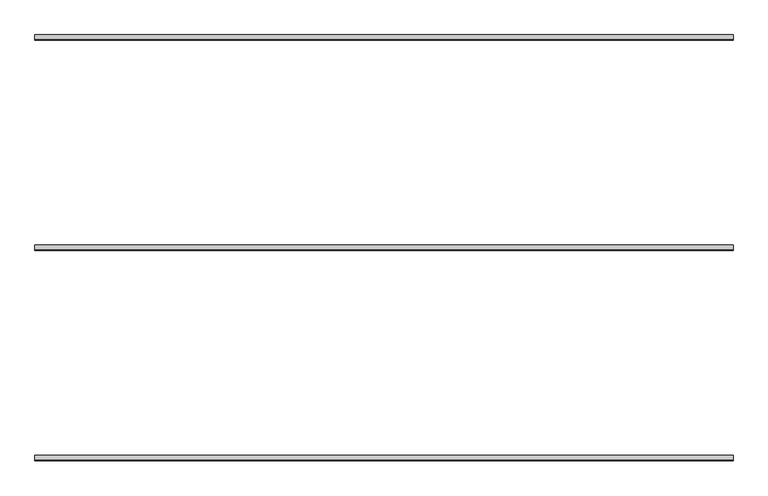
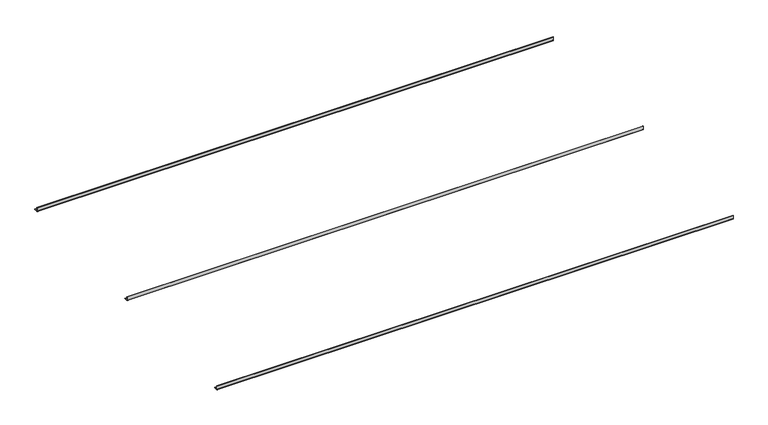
"""IFC4 building model written with IfcOpenShell, lengths in millimetres: proxy geometry, durlum_S4_RHOMBOS : durlum_S4_RHOMBOS."""

import ifcopenshell
import ifcopenshell.guid

model = None  # the IFC model being written
_history = None  # IfcOwnerHistory: only IFC2X3 demands one
_inside = {}  # id of a spatial element -> (the spatial element, [elements in it])
_under = {}  # id of a project, library or spatial element -> (it, [spatial elements below it])
_declared = {}  # id of a project -> (the project, [libraries it declares])
_typed = {}  # id of a type object -> (the type object, [elements of that type])
_made_of = {}  # id of a material, layer set ... -> (it, [elements and type objects made of it])


def new_model(schema):
    """Start an empty IFC model of exactly this schema.

    Asked for "IFC4X3", IfcOpenShell would pick the latest addendum, in which some entities
    have other attributes; the version numbers below select the first issue.
    IFC2X3 requires an IfcOwnerHistory on every rooted entity: one is made here for all.
    """
    global model, _history
    if schema == "IFC4X3":
        model = ifcopenshell.file(schema_version=(4, 3, 0, 0))
    else:
        model = ifcopenshell.file(schema=schema)
    _inside.clear()
    _under.clear()
    _declared.clear()
    _typed.clear()
    _made_of.clear()
    _history = None
    if model.schema == "IFC2X3":
        org = make("IfcOrganization", Name="unknown")
        user = make(
            "IfcPersonAndOrganization",
            ThePerson=make("IfcPerson", FamilyName="unknown"),
            TheOrganization=org,
        )
        app = make(
            "IfcApplication",
            ApplicationDeveloper=org,
            Version="unknown",
            ApplicationFullName="unknown",
            ApplicationIdentifier="unknown",
        )
        _history = make(
            "IfcOwnerHistory",
            OwningUser=user,
            OwningApplication=app,
            ChangeAction="ADDED",
            CreationDate=0,
        )
    return model


def make(cls, **values):
    """One entity of the class cls with the attributes given. An attribute that is None is left unset."""
    return model.create_entity(
        cls, **{name: value for name, value in values.items() if value is not None}
    )


def rooted(cls, **values):
    """An entity with a GlobalId (a new one), such as an element, a storey or a relation."""
    return make(cls, GlobalId=ifcopenshell.guid.new(), OwnerHistory=_history, **values)


def si_unit(unit_type, name, prefix=None):
    """IfcSIUnit, for example si_unit("LENGTHUNIT", "METRE", prefix="MILLI")."""
    return make("IfcSIUnit", UnitType=unit_type, Prefix=prefix, Name=name)


def assignment(units):
    """IfcUnitAssignment: the units of a project."""
    return None if units is None else make("IfcUnitAssignment", Units=units)


def point(xyz):
    """IfcCartesianPoint."""
    return None if xyz is None else make("IfcCartesianPoint", Coordinates=xyz)


def direction(xyz):
    """IfcDirection."""
    return None if xyz is None else make("IfcDirection", DirectionRatios=xyz)


def frame(location, z_axis=None, x_axis=None):
    """IfcAxis2Placement3D, a coordinate frame: its origin and axes. An axis left out is left unset."""
    return make(
        "IfcAxis2Placement3D",
        Location=point(location),
        Axis=direction(z_axis),
        RefDirection=direction(x_axis),
    )


def frame_2d(location, x_axis=None):
    """IfcAxis2Placement2D, a coordinate frame in the plane: its origin and x axis."""
    return make(
        "IfcAxis2Placement2D", Location=point(location), RefDirection=direction(x_axis)
    )


def origin():
    """The frame at (0, 0, 0) with its axes left unset."""
    return frame((0.0, 0.0, 0.0))


def place(relative_to, where):
    """IfcLocalPlacement: puts the frame where relative to a parent placement (None: the world)."""
    return make(
        "IfcLocalPlacement", PlacementRelTo=relative_to, RelativePlacement=where
    )


def context(
    kind, dimensions, precision=None, world=None, true_north=None, identifier=None
):
    """IfcGeometricRepresentationContext, for example the 3D "Model" context."""
    return make(
        "IfcGeometricRepresentationContext",
        ContextIdentifier=identifier,
        ContextType=kind,
        CoordinateSpaceDimension=dimensions,
        Precision=precision,
        WorldCoordinateSystem=world,
        TrueNorth=true_north,
    )


def project(units=None, contexts=None):
    """IfcProject with its units and contexts."""
    return rooted(
        "IfcProject",
        Name="project",
        RepresentationContexts=contexts,
        UnitsInContext=assignment(units),
    )


def spatial(cls, under=None, at=None, **own):
    """A site, building, storey or space (cls), placed at a placement, below another one or the project."""
    s = rooted(cls, ObjectPlacement=at, **own)
    if under is not None:
        _under.setdefault(under.id(), (under, []))[1].append(s)
    return s


def polyline(points):
    """IfcPolyline through the points."""
    return make("IfcPolyline", Points=[point(p) for p in points])


def circle_curve(where, radius):
    """IfcCircle in the frame where."""
    return make("IfcCircle", Position=where, Radius=radius)


def trimmed(basis, trim1, trim2, sense, master):
    """IfcTrimmedCurve: the piece of a basis curve between two trims."""
    return make(
        "IfcTrimmedCurve",
        BasisCurve=basis,
        Trim1=trim1,
        Trim2=trim2,
        SenseAgreement=sense,
        MasterRepresentation=master,
    )


def segment(curve, same_sense, transition):
    """IfcCompositeCurveSegment."""
    return make(
        "IfcCompositeCurveSegment",
        Transition=transition,
        SameSense=same_sense,
        ParentCurve=curve,
    )


def composite_curve(segments, self_intersect=None):
    """IfcCompositeCurve: segments joined end to end."""
    return make("IfcCompositeCurve", Segments=segments, SelfIntersect=self_intersect)


def outline(outer, holes=None, kind="AREA"):
    """IfcArbitraryClosedProfileDef: a profile drawn as a closed curve; with holes, ...WithVoids."""
    if holes is None:
        return make("IfcArbitraryClosedProfileDef", ProfileType=kind, OuterCurve=outer)
    return make(
        "IfcArbitraryProfileDefWithVoids",
        ProfileType=kind,
        OuterCurve=outer,
        InnerCurves=holes,
    )


def extrude(swept, where, along, depth):
    """IfcExtrudedAreaSolid: the profile swept, set in the frame where, extruded along a direction by depth."""
    return make(
        "IfcExtrudedAreaSolid",
        SweptArea=swept,
        Position=where,
        ExtrudedDirection=direction(along),
        Depth=depth,
    )


def shape(context_of_items, identifier, shape_type, items):
    """IfcShapeRepresentation: the items that make up one representation, for example the "Body"."""
    return make(
        "IfcShapeRepresentation",
        ContextOfItems=context_of_items,
        RepresentationIdentifier=identifier,
        RepresentationType=shape_type,
        Items=items,
    )


def source(mapping_origin, context_of_items, identifier, shape_type, items):
    """IfcRepresentationMap: a shape defined once, which mapped items show again and again."""
    return make(
        "IfcRepresentationMap",
        MappingOrigin=mapping_origin,
        MappedRepresentation=shape(context_of_items, identifier, shape_type, items),
    )


def transform(
    local_origin,
    x_axis=None,
    y_axis=None,
    z_axis=None,
    scale=None,
    scale2=None,
    scale3=None,
    uniform=True,
):
    """IfcCartesianTransformationOperator3D, or its non-uniform kind. x_axis, y_axis, z_axis: its Axis1, 2, 3."""
    if uniform:
        return make(
            "IfcCartesianTransformationOperator3D",
            Axis1=direction(x_axis),
            Axis2=direction(y_axis),
            LocalOrigin=point(local_origin),
            Scale=scale,
            Axis3=direction(z_axis),
        )
    return make(
        "IfcCartesianTransformationOperator3DnonUniform",
        Axis1=direction(x_axis),
        Axis2=direction(y_axis),
        LocalOrigin=point(local_origin),
        Scale=scale,
        Axis3=direction(z_axis),
        Scale2=scale2,
        Scale3=scale3,
    )


def mapped(mapping_source, mapping_target):
    """IfcMappedItem: shows the shape of a source again, moved by a transform."""
    return make(
        "IfcMappedItem", MappingSource=mapping_source, MappingTarget=mapping_target
    )


def made_of(thing, what):
    """Note that an element or type object is made of a material, layer set ...; save() writes the relation."""
    if what is not None:
        _made_of.setdefault(what.id(), (what, []))[1].append(thing)
    return thing


def element(
    cls,
    number,
    at=None,
    inside=None,
    cuts=None,
    type_object=None,
    material=None,
    context=None,
    identifier="Body",
    shape_type=None,
    held_by="IfcProductDefinitionShape",
    body=None,
    shapes=None,
    **own,
):
    """One element of the class cls, such as IfcWall. Its Tag is "e" and its number.

    at: its placement. inside: the storey or other place that contains it. cuts: it is an
    opening in that element (IfcRelVoidsElement). A single representation is given by context,
    identifier, shape_type and body (its items); several are given by shapes. held_by: the class
    of the entity that holds the representations. save() writes the other relations.
    """
    e = rooted(cls, Tag="e%d" % number, ObjectPlacement=at, **own)
    if body is not None:
        shapes = [shape(context, identifier, shape_type, body)]
    if shapes is not None:
        e.Representation = make(held_by, Representations=shapes)
    if inside is not None:
        _inside.setdefault(inside.id(), (inside, []))[1].append(e)
    if cuts is not None:
        rooted(
            "IfcRelVoidsElement", RelatingBuildingElement=cuts, RelatedOpeningElement=e
        )
    if type_object is not None:
        _typed.setdefault(type_object.id(), (type_object, []))[1].append(e)
    return made_of(e, material)


def aggregate(whole, parts):
    """IfcRelAggregates: a whole, such as a stair, and the parts it consists of."""
    return rooted("IfcRelAggregates", RelatingObject=whole, RelatedObjects=parts)


def save(model, path):
    """Write the relations noted so far, then the file.

    IfcRelAggregates (storeys below a building ...), IfcRelContainedInSpatialStructure (elements
    in a storey), IfcRelDefinesByType, IfcRelAssociatesMaterial and IfcRelDeclares: one each for
    every whole, place, type object, material and project.
    """
    for whole, parts in _under.values():
        aggregate(whole, parts)
    for where, things in _inside.values():
        rooted(
            "IfcRelContainedInSpatialStructure",
            RelatedElements=things,
            RelatingStructure=where,
        )
    for kind, things in _typed.values():
        rooted("IfcRelDefinesByType", RelatedObjects=things, RelatingType=kind)
    for what, things in _made_of.values():
        rooted("IfcRelAssociatesMaterial", RelatedObjects=things, RelatingMaterial=what)
    for by, libraries in _declared.values():
        rooted("IfcRelDeclares", RelatingContext=by, RelatedDefinitions=libraries)
    model.write(path)


def generic_models_7976c679(model_context):
    return source(origin(), model_context, "Body", "SweptSolid", [
        extrude(outline(composite_curve([segment(polyline([(2.0, 3821.9), (2.0, 3796.0)]), True, "CONTINUOUS"), segment(trimmed(circle_curve(frame_2d((4.0, 3796.0)), 2.0), [point((2.0, 3796.0))], [point((4.0, 3794.0))], True, "CARTESIAN"), True, "CONTINUOUS"), segment(polyline([(4.0, 3794.0), (29.9, 3794.0), (29.9, 3792.0), (4.0, 3792.0)]), True, "CONTINUOUS"), segment(trimmed(circle_curve(frame_2d((4.0, 3796.0)), 4.0), [point((4.0, 3792.0))], [point((0.0, 3796.0))], False, "CARTESIAN"), True, "CONTINUOUS"), segment(polyline([(0.0, 3796.0), (0.0, 3821.9), (2.0, 3821.9)]), True, "CONTINUOUS")], self_intersect=False)), frame((-1990.0, 0.0, 0.0), z_axis=(1.0, 0.0, 0.0), x_axis=(0.0, 1.0, 0.0)), (0.0, 0.0, 1.0), 3980.0),
        extrude(outline(composite_curve([segment(polyline([(-1198.0, 3821.9), (-1198.0, 3796.0)]), True, "CONTINUOUS"), segment(trimmed(circle_curve(frame_2d((-1196.0, 3796.0)), 2.0), [point((-1198.0, 3796.0))], [point((-1196.0, 3794.0))], True, "CARTESIAN"), True, "CONTINUOUS"), segment(polyline([(-1196.0, 3794.0), (-1170.1, 3794.0), (-1170.1, 3792.0), (-1196.0, 3792.0)]), True, "CONTINUOUS"), segment(trimmed(circle_curve(frame_2d((-1196.0, 3796.0)), 4.0), [point((-1196.0, 3792.0))], [point((-1200.0, 3796.0))], False, "CARTESIAN"), True, "CONTINUOUS"), segment(polyline([(-1200.0, 3796.0), (-1200.0, 3821.9), (-1198.0, 3821.9)]), True, "CONTINUOUS")], self_intersect=False)), frame((-1990.0, 0.0, 0.0), z_axis=(1.0, 0.0, 0.0), x_axis=(0.0, 1.0, 0.0)), (0.0, 0.0, 1.0), 3980.0),
        extrude(outline(composite_curve([segment(polyline([(1202.0, 3821.9), (1202.0, 3796.0)]), True, "CONTINUOUS"), segment(trimmed(circle_curve(frame_2d((1204.0, 3796.0)), 2.0), [point((1202.0, 3796.0))], [point((1204.0, 3794.0))], True, "CARTESIAN"), True, "CONTINUOUS"), segment(polyline([(1204.0, 3794.0), (1229.9, 3794.0), (1229.9, 3792.0), (1204.0, 3792.0)]), True, "CONTINUOUS"), segment(trimmed(circle_curve(frame_2d((1204.0, 3796.0)), 4.0), [point((1204.0, 3792.0))], [point((1200.0, 3796.0))], False, "CARTESIAN"), True, "CONTINUOUS"), segment(polyline([(1200.0, 3796.0), (1200.0, 3821.9), (1202.0, 3821.9)]), True, "CONTINUOUS")], self_intersect=False)), frame((-1990.0, 0.0, 0.0), z_axis=(1.0, 0.0, 0.0), x_axis=(0.0, 1.0, 0.0)), (0.0, 0.0, 1.0), 3980.0),
    ])


if __name__ == "__main__":
    model = new_model("IFC4")
    model_context = context("Model", 3, world=origin())
    ifc_project = project(units=[si_unit("LENGTHUNIT", "METRE", prefix="MILLI")], contexts=[model_context])
    site = spatial("IfcSite", under=ifc_project)
    building = spatial("IfcBuilding", under=site)
    placement = place(None, origin())
    generic_models_shape = generic_models_7976c679(model_context)
    element("IfcBuildingElementProxy", 1, Name="durlum_S4_RHOMBOS : durlum_S4_RHOMBOS", ObjectType="durlum_S4_RHOMBOS : durlum_S4_RHOMBOS", at=placement, inside=building, context=model_context, shape_type="MappedRepresentation", body=[
        mapped(generic_models_shape, transform((0.0, 0.0, 0.0), x_axis=(1.0, 0.0, 0.0), y_axis=(0.0, 1.0, 0.0), z_axis=(0.0, 0.0, 1.0))),
    ])
    save(model, "model.ifc")
